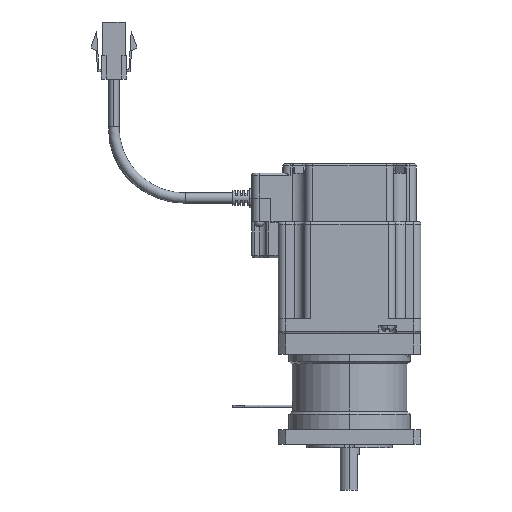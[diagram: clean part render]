
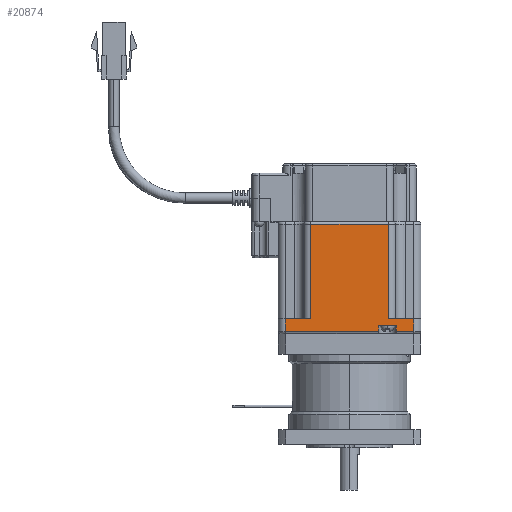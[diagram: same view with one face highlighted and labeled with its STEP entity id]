
A CAD part, left-side view. The second image highlights one B-rep face of the part: STEP entity #20874.
In plain terms, the highlighted planar face has unit normal (-1, 0, 0) as drawn and (1, 0, 0) by its records, which use the part's own axes.
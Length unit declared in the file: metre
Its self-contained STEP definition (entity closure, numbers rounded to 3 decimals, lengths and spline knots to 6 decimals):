
#2022 = EDGE_LOOP ( 'NONE', ( #12005, #12007, #12009, #12011, #12013, #12014, #12017, #12019, #12021, #12022, #12024, #12026 ) ) ;
#5663 = VERTEX_POINT ( 'NONE', #8538 ) ;
#5689 = VERTEX_POINT ( 'NONE', #8551 ) ;
#5749 = VERTEX_POINT ( 'NONE', #8581 ) ;
#5761 = VERTEX_POINT ( 'NONE', #8587 ) ;
#5769 = VERTEX_POINT ( 'NONE', #8591 ) ;
#5773 = VERTEX_POINT ( 'NONE', #8593 ) ;
#5775 = VERTEX_POINT ( 'NONE', #8594 ) ;
#5777 = VERTEX_POINT ( 'NONE', #8595 ) ;
#5779 = VERTEX_POINT ( 'NONE', #8596 ) ;
#5791 = VERTEX_POINT ( 'NONE', #8602 ) ;
#5831 = VERTEX_POINT ( 'NONE', #8622 ) ;
#5837 = VERTEX_POINT ( 'NONE', #8625 ) ;
#6966 = FACE_OUTER_BOUND ( 'NONE', #2022, .T. ) ;
#8538 = CARTESIAN_POINT ( 'NONE',  ( 0.092176, -0.041308, -0.211 ) ) ;
#8551 = CARTESIAN_POINT ( 'NONE',  ( 0.092176, 0.012692, -0.211 ) ) ;
#8581 = CARTESIAN_POINT ( 'NONE',  ( 0.092176, -0.030608, -0.2057 ) ) ;
#8587 = CARTESIAN_POINT ( 'NONE',  ( 0.092176, -0.041308, -0.2057 ) ) ;
#8591 = CARTESIAN_POINT ( 'NONE',  ( 0.092176, 0.005292, -0.2085 ) ) ;
#8593 = CARTESIAN_POINT ( 'NONE',  ( 0.092176, -0.002108, -0.2085 ) ) ;
#8594 = CARTESIAN_POINT ( 'NONE',  ( 0.092176, 0.005292, -0.211 ) ) ;
#8595 = CARTESIAN_POINT ( 'NONE',  ( 0.092176, -0.002108, -0.211 ) ) ;
#8596 = CARTESIAN_POINT ( 'NONE',  ( 0.092176, 0.012692, -0.2057 ) ) ;
#8602 = CARTESIAN_POINT ( 'NONE',  ( 0.092176, 0.001992, -0.2057 ) ) ;
#8622 = CARTESIAN_POINT ( 'NONE',  ( 0.092176, 0.001992, -0.166 ) ) ;
#8625 = CARTESIAN_POINT ( 'NONE',  ( 0.092176, -0.030608, -0.166 ) ) ;
#10288 = CARTESIAN_POINT ( 'NONE',  ( 0.092176, -0.044308, -0.212 ) ) ;
#10293 = PLANE ( 'NONE',  #22915 ) ;
#10296 = DIRECTION ( 'NONE',  ( 1., 0., 0. ) ) ;
#10297 = DIRECTION ( 'NONE',  ( 0., 1., 0. ) ) ;
#12005 = ORIENTED_EDGE ( 'NONE', *, *, #37496, .T. ) ;
#12007 = ORIENTED_EDGE ( 'NONE', *, *, #37534, .F. ) ;
#12009 = ORIENTED_EDGE ( 'NONE', *, *, #37535, .F. ) ;
#12011 = ORIENTED_EDGE ( 'NONE', *, *, #37532, .T. ) ;
#12013 = ORIENTED_EDGE ( 'NONE', *, *, #37468, .T. ) ;
#12014 = ORIENTED_EDGE ( 'NONE', *, *, #37477, .T. ) ;
#12017 = ORIENTED_EDGE ( 'NONE', *, *, #37479, .T. ) ;
#12019 = ORIENTED_EDGE ( 'NONE', *, *, #37480, .T. ) ;
#12021 = ORIENTED_EDGE ( 'NONE', *, *, #37483, .T. ) ;
#12022 = ORIENTED_EDGE ( 'NONE', *, *, #37485, .T. ) ;
#12024 = ORIENTED_EDGE ( 'NONE', *, *, #37486, .T. ) ;
#12026 = ORIENTED_EDGE ( 'NONE', *, *, #37488, .T. ) ;
#20874 = ADVANCED_FACE ( 'NONE', ( #6966 ), #10293, .T. ) ;
#22915 = AXIS2_PLACEMENT_3D ( 'NONE', #10288, #10296, #10297 ) ;
#32347 = CARTESIAN_POINT ( 'NONE',  ( 0.092176, -0.014308, -0.2057 ) ) ;
#32349 = DIRECTION ( 'NONE',  ( 0., -1., 0. ) ) ;
#32366 = CARTESIAN_POINT ( 'NONE',  ( 0.092176, -0.014308, -0.211 ) ) ;
#32367 = DIRECTION ( 'NONE',  ( 0., 1., 0. ) ) ;
#32371 = CARTESIAN_POINT ( 'NONE',  ( 0.092176, -0.041308, -0.1885 ) ) ;
#32372 = DIRECTION ( 'NONE',  ( 0., 0., -1. ) ) ;
#32373 = CARTESIAN_POINT ( 'NONE',  ( 0.092176, 0.005292, -0.1885 ) ) ;
#32374 = DIRECTION ( 'NONE',  ( 0., 0., -1. ) ) ;
#32378 = CARTESIAN_POINT ( 'NONE',  ( 0.092176, -0.002108, -0.1885 ) ) ;
#32379 = DIRECTION ( 'NONE',  ( 0., 0., 1. ) ) ;
#32384 = CARTESIAN_POINT ( 'NONE',  ( 0.092176, -0.014308, -0.2085 ) ) ;
#32385 = DIRECTION ( 'NONE',  ( 0., 1., 0. ) ) ;
#32386 = DIRECTION ( 'NONE',  ( 0., 0., 1. ) ) ;
#32390 = CARTESIAN_POINT ( 'NONE',  ( 0.092176, -0.014308, -0.211 ) ) ;
#32391 = DIRECTION ( 'NONE',  ( 0., 1., 0. ) ) ;
#32393 = CARTESIAN_POINT ( 'NONE',  ( 0.092176, 0.012692, -0.1885 ) ) ;
#32410 = DIRECTION ( 'NONE',  ( 0., -1., 0. ) ) ;
#32412 = CARTESIAN_POINT ( 'NONE',  ( 0.092176, -0.014308, -0.2057 ) ) ;
#32717 = LINE ( 'NONE', #32347, #32720 ) ;
#32720 = VECTOR ( 'NONE', #32349, 1. ) ;
#32727 = LINE ( 'NONE', #32393, #32753 ) ;
#32731 = LINE ( 'NONE', #32371, #32734 ) ;
#32734 = VECTOR ( 'NONE', #32372, 1. ) ;
#32735 = LINE ( 'NONE', #32366, #32737 ) ;
#32736 = LINE ( 'NONE', #32378, #32739 ) ;
#32737 = VECTOR ( 'NONE', #32367, 1. ) ;
#32739 = VECTOR ( 'NONE', #32379, 1. ) ;
#32742 = LINE ( 'NONE', #32384, #32745 ) ;
#32745 = VECTOR ( 'NONE', #32385, 1. ) ;
#32746 = LINE ( 'NONE', #32373, #32748 ) ;
#32747 = LINE ( 'NONE', #32390, #32750 ) ;
#32748 = VECTOR ( 'NONE', #32374, 1. ) ;
#32750 = VECTOR ( 'NONE', #32391, 1. ) ;
#32753 = VECTOR ( 'NONE', #32386, 1. ) ;
#32762 = LINE ( 'NONE', #32412, #32766 ) ;
#32766 = VECTOR ( 'NONE', #32410, 1. ) ;
#32824 = LINE ( 'NONE', #33479, #32830 ) ;
#32830 = VECTOR ( 'NONE', #33488, 1. ) ;
#32831 = LINE ( 'NONE', #33486, #32833 ) ;
#32832 = LINE ( 'NONE', #33494, #32835 ) ;
#32833 = VECTOR ( 'NONE', #33480, 1. ) ;
#32835 = VECTOR ( 'NONE', #33495, 1. ) ;
#33479 = CARTESIAN_POINT ( 'NONE',  ( 0.092176, -0.030608, -0.1885 ) ) ;
#33480 = DIRECTION ( 'NONE',  ( 0., 0., -1. ) ) ;
#33486 = CARTESIAN_POINT ( 'NONE',  ( 0.092176, 0.001992, -0.18535 ) ) ;
#33488 = DIRECTION ( 'NONE',  ( 0., 0., -1. ) ) ;
#33494 = CARTESIAN_POINT ( 'NONE',  ( 0.092176, -0.014308, -0.166 ) ) ;
#33495 = DIRECTION ( 'NONE',  ( 0., 1., 0. ) ) ;
#37468 = EDGE_CURVE ( 'NONE', #5749, #5761, #32717, .T. ) ;
#37477 = EDGE_CURVE ( 'NONE', #5761, #5663, #32731, .T. ) ;
#37479 = EDGE_CURVE ( 'NONE', #5663, #5777, #32735, .T. ) ;
#37480 = EDGE_CURVE ( 'NONE', #5777, #5773, #32736, .T. ) ;
#37483 = EDGE_CURVE ( 'NONE', #5773, #5769, #32742, .T. ) ;
#37485 = EDGE_CURVE ( 'NONE', #5769, #5775, #32746, .T. ) ;
#37486 = EDGE_CURVE ( 'NONE', #5775, #5689, #32747, .T. ) ;
#37488 = EDGE_CURVE ( 'NONE', #5689, #5779, #32727, .T. ) ;
#37496 = EDGE_CURVE ( 'NONE', #5779, #5791, #32762, .T. ) ;
#37532 = EDGE_CURVE ( 'NONE', #5837, #5749, #32824, .T. ) ;
#37534 = EDGE_CURVE ( 'NONE', #5831, #5791, #32831, .T. ) ;
#37535 = EDGE_CURVE ( 'NONE', #5837, #5831, #32832, .T. ) ;
